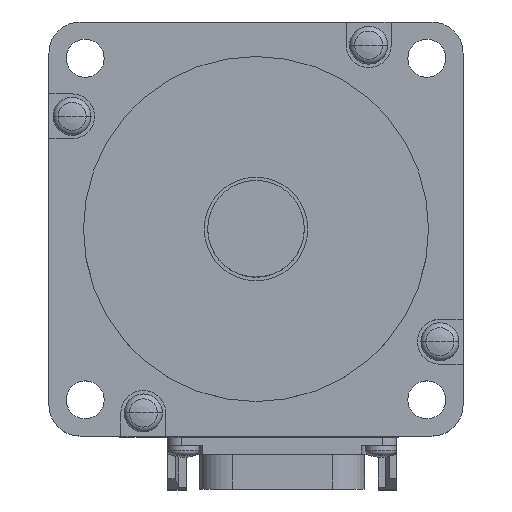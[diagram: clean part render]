
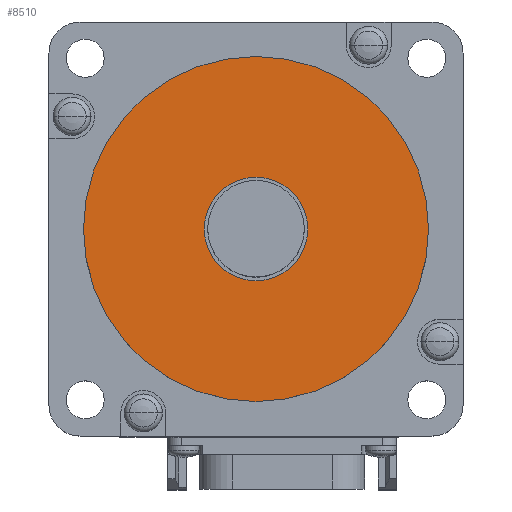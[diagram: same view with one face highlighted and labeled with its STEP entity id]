
A CAD part, top view. The second image highlights one B-rep face of the part: STEP entity #8510.
In plain terms, the highlighted planar face has unit normal (0, 0, 1).
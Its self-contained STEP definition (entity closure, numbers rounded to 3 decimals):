
#2069=CARTESIAN_POINT('',(0.,0.,3.));
#2070=DIRECTION('',(0.,0.,-1.));
#2071=DIRECTION('',(1.,0.,0.));
#2072=AXIS2_PLACEMENT_3D('',#2069,#2070,#2071);
#2074=CARTESIAN_POINT('',(0.,0.,3.));
#2075=DIRECTION('',(0.,0.,-1.));
#2076=DIRECTION('',(-1.,0.,0.));
#2077=AXIS2_PLACEMENT_3D('',#2074,#2075,#2076);
#2079=CARTESIAN_POINT('',(0.,0.,3.));
#2080=DIRECTION('',(0.,0.,1.));
#2081=DIRECTION('',(1.,0.,0.));
#2082=AXIS2_PLACEMENT_3D('',#2079,#2080,#2081);
#2084=CARTESIAN_POINT('',(0.,0.,3.));
#2085=DIRECTION('',(0.,0.,1.));
#2086=DIRECTION('',(-1.,0.,0.));
#2087=AXIS2_PLACEMENT_3D('',#2084,#2085,#2086);
#4636=CARTESIAN_POINT('',(25.,0.,3.));
#4637=VERTEX_POINT('',#4636);
#4638=CARTESIAN_POINT('',(-25.,0.,3.));
#4639=VERTEX_POINT('',#4638);
#5708=CARTESIAN_POINT('',(7.5,0.,3.));
#5709=CARTESIAN_POINT('',(-7.5,0.,3.));
#5710=VERTEX_POINT('',#5708);
#5711=VERTEX_POINT('',#5709);
#8494=CARTESIAN_POINT('',(0.,0.,3.));
#8495=DIRECTION('',(0.,0.,1.));
#8496=DIRECTION('',(1.,0.,0.));
#8497=AXIS2_PLACEMENT_3D('',#8494,#8495,#8496);
#8498=PLANE('',#8497);
#8499=ORIENTED_EDGE('',*,*,#8484,.T.);
#8501=ORIENTED_EDGE('',*,*,#8500,.T.);
#8502=EDGE_LOOP('',(#8499,#8501));
#8503=FACE_OUTER_BOUND('',#8502,.F.);
#8505=ORIENTED_EDGE('',*,*,#8504,.T.);
#8507=ORIENTED_EDGE('',*,*,#8506,.T.);
#8508=EDGE_LOOP('',(#8505,#8507));
#8509=FACE_BOUND('',#8508,.F.);
#8510=ADVANCED_FACE('',(#8503,#8509),#8498,.T.);
#2073=CIRCLE('',#2072,25.);
#2078=CIRCLE('',#2077,25.);
#2083=CIRCLE('',#2082,7.5);
#2088=CIRCLE('',#2087,7.5);
#8484=EDGE_CURVE('',#4637,#4639,#2073,.T.);
#8500=EDGE_CURVE('',#4639,#4637,#2078,.T.);
#8504=EDGE_CURVE('',#5710,#5711,#2083,.T.);
#8506=EDGE_CURVE('',#5711,#5710,#2088,.T.);
